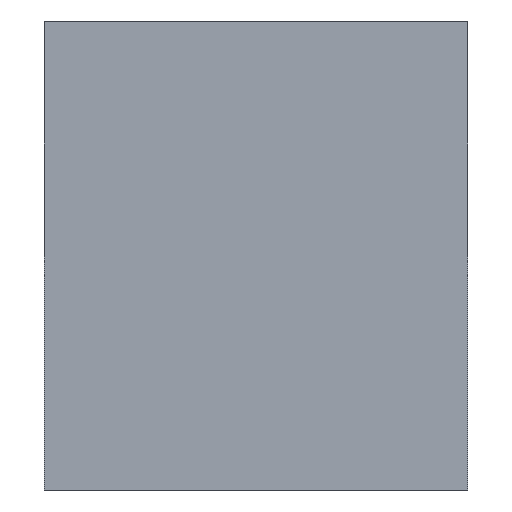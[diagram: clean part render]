
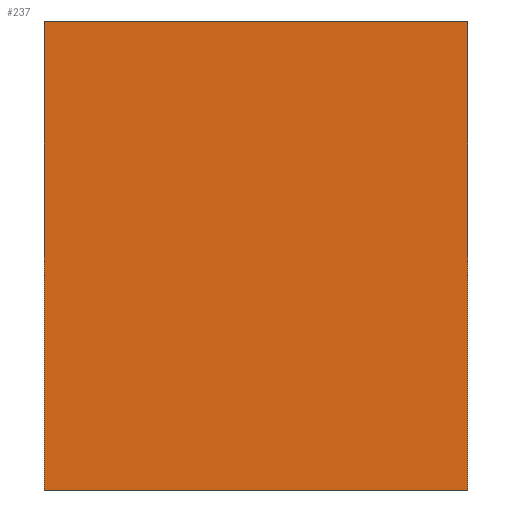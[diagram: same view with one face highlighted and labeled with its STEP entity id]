
A CAD part, front view. The second image highlights one B-rep face of the part: STEP entity #237.
In plain terms, the highlighted planar face has unit normal (0, -1, 0).
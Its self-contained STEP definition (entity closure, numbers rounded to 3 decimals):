
#21 = EDGE_CURVE('',#22,#24,#26,.T.);
#22 = VERTEX_POINT('',#23);
#23 = CARTESIAN_POINT('',(-21.5,-33.,-8.725));
#24 = VERTEX_POINT('',#25);
#25 = CARTESIAN_POINT('',(-21.5,-33.,-2.1));
#26 = SURFACE_CURVE('',#27,(#31,#43),.PCURVE_S1.);
#27 = LINE('',#28,#29);
#28 = CARTESIAN_POINT('',(-21.5,-33.,-8.725));
#29 = VECTOR('',#30,1.);
#30 = DIRECTION('',(0.,0.,1.));
#31 = PCURVE('',#32,#37);
#32 = PLANE('',#33);
#33 = AXIS2_PLACEMENT_3D('',#34,#35,#36);
#34 = CARTESIAN_POINT('',(-21.5,-33.,-8.725));
#35 = DIRECTION('',(1.,0.,-0.));
#36 = DIRECTION('',(0.,0.,1.));
#37 = DEFINITIONAL_REPRESENTATION('',(#38),#42);
#38 = LINE('',#39,#40);
#39 = CARTESIAN_POINT('',(0.,0.));
#40 = VECTOR('',#41,1.);
#41 = DIRECTION('',(1.,0.));
#42 = ( GEOMETRIC_REPRESENTATION_CONTEXT(2) 
PARAMETRIC_REPRESENTATION_CONTEXT() REPRESENTATION_CONTEXT('2D SPACE',''
  ) );
#43 = PCURVE('',#44,#49);
#44 = PLANE('',#45);
#45 = AXIS2_PLACEMENT_3D('',#46,#47,#48);
#46 = CARTESIAN_POINT('',(-21.5,-33.,-8.725));
#47 = DIRECTION('',(-0.,1.,0.));
#48 = DIRECTION('',(0.,0.,1.));
#49 = DEFINITIONAL_REPRESENTATION('',(#50),#54);
#50 = LINE('',#51,#52);
#51 = CARTESIAN_POINT('',(0.,0.));
#52 = VECTOR('',#53,1.);
#53 = DIRECTION('',(1.,0.));
#54 = ( GEOMETRIC_REPRESENTATION_CONTEXT(2) 
PARAMETRIC_REPRESENTATION_CONTEXT() REPRESENTATION_CONTEXT('2D SPACE',''
  ) );
#72 = PLANE('',#73);
#73 = AXIS2_PLACEMENT_3D('',#74,#75,#76);
#74 = CARTESIAN_POINT('',(-21.5,-33.,-8.725));
#75 = DIRECTION('',(0.,0.,1.));
#76 = DIRECTION('',(1.,0.,-0.));
#126 = PLANE('',#127);
#127 = AXIS2_PLACEMENT_3D('',#128,#129,#130);
#128 = CARTESIAN_POINT('',(-21.5,-33.,-2.1));
#129 = DIRECTION('',(0.,0.,1.));
#130 = DIRECTION('',(1.,0.,-0.));
#141 = EDGE_CURVE('',#142,#144,#146,.T.);
#142 = VERTEX_POINT('',#143);
#143 = CARTESIAN_POINT('',(-15.5,-33.,-8.725));
#144 = VERTEX_POINT('',#145);
#145 = CARTESIAN_POINT('',(-15.5,-33.,-2.1));
#146 = SURFACE_CURVE('',#147,(#151,#163),.PCURVE_S1.);
#147 = LINE('',#148,#149);
#148 = CARTESIAN_POINT('',(-15.5,-33.,-8.725));
#149 = VECTOR('',#150,1.);
#150 = DIRECTION('',(0.,0.,1.));
#151 = PCURVE('',#152,#157);
#152 = PLANE('',#153);
#153 = AXIS2_PLACEMENT_3D('',#154,#155,#156);
#154 = CARTESIAN_POINT('',(-15.5,-33.,-8.725));
#155 = DIRECTION('',(1.,0.,-0.));
#156 = DIRECTION('',(0.,0.,1.));
#157 = DEFINITIONAL_REPRESENTATION('',(#158),#162);
#158 = LINE('',#159,#160);
#159 = CARTESIAN_POINT('',(0.,0.));
#160 = VECTOR('',#161,1.);
#161 = DIRECTION('',(1.,0.));
#162 = ( GEOMETRIC_REPRESENTATION_CONTEXT(2) 
PARAMETRIC_REPRESENTATION_CONTEXT() REPRESENTATION_CONTEXT('2D SPACE',''
  ) );
#163 = PCURVE('',#44,#164);
#164 = DEFINITIONAL_REPRESENTATION('',(#165),#169);
#165 = LINE('',#166,#167);
#166 = CARTESIAN_POINT('',(0.,6.));
#167 = VECTOR('',#168,1.);
#168 = DIRECTION('',(1.,0.));
#169 = ( GEOMETRIC_REPRESENTATION_CONTEXT(2) 
PARAMETRIC_REPRESENTATION_CONTEXT() REPRESENTATION_CONTEXT('2D SPACE',''
  ) );
#237 = ADVANCED_FACE('',(#238),#44,.F.);
#238 = FACE_BOUND('',#239,.F.);
#239 = EDGE_LOOP('',(#240,#261,#262,#283));
#240 = ORIENTED_EDGE('',*,*,#241,.F.);
#241 = EDGE_CURVE('',#22,#142,#242,.T.);
#242 = SURFACE_CURVE('',#243,(#247,#254),.PCURVE_S1.);
#243 = LINE('',#244,#245);
#244 = CARTESIAN_POINT('',(-21.5,-33.,-8.725));
#245 = VECTOR('',#246,1.);
#246 = DIRECTION('',(1.,0.,-0.));
#247 = PCURVE('',#44,#248);
#248 = DEFINITIONAL_REPRESENTATION('',(#249),#253);
#249 = LINE('',#250,#251);
#250 = CARTESIAN_POINT('',(0.,0.));
#251 = VECTOR('',#252,1.);
#252 = DIRECTION('',(0.,1.));
#253 = ( GEOMETRIC_REPRESENTATION_CONTEXT(2) 
PARAMETRIC_REPRESENTATION_CONTEXT() REPRESENTATION_CONTEXT('2D SPACE',''
  ) );
#254 = PCURVE('',#72,#255);
#255 = DEFINITIONAL_REPRESENTATION('',(#256),#260);
#256 = LINE('',#257,#258);
#257 = CARTESIAN_POINT('',(0.,0.));
#258 = VECTOR('',#259,1.);
#259 = DIRECTION('',(1.,0.));
#260 = ( GEOMETRIC_REPRESENTATION_CONTEXT(2) 
PARAMETRIC_REPRESENTATION_CONTEXT() REPRESENTATION_CONTEXT('2D SPACE',''
  ) );
#261 = ORIENTED_EDGE('',*,*,#21,.T.);
#262 = ORIENTED_EDGE('',*,*,#263,.T.);
#263 = EDGE_CURVE('',#24,#144,#264,.T.);
#264 = SURFACE_CURVE('',#265,(#269,#276),.PCURVE_S1.);
#265 = LINE('',#266,#267);
#266 = CARTESIAN_POINT('',(-21.5,-33.,-2.1));
#267 = VECTOR('',#268,1.);
#268 = DIRECTION('',(1.,0.,-0.));
#269 = PCURVE('',#44,#270);
#270 = DEFINITIONAL_REPRESENTATION('',(#271),#275);
#271 = LINE('',#272,#273);
#272 = CARTESIAN_POINT('',(6.625,0.));
#273 = VECTOR('',#274,1.);
#274 = DIRECTION('',(0.,1.));
#275 = ( GEOMETRIC_REPRESENTATION_CONTEXT(2) 
PARAMETRIC_REPRESENTATION_CONTEXT() REPRESENTATION_CONTEXT('2D SPACE',''
  ) );
#276 = PCURVE('',#126,#277);
#277 = DEFINITIONAL_REPRESENTATION('',(#278),#282);
#278 = LINE('',#279,#280);
#279 = CARTESIAN_POINT('',(0.,0.));
#280 = VECTOR('',#281,1.);
#281 = DIRECTION('',(1.,0.));
#282 = ( GEOMETRIC_REPRESENTATION_CONTEXT(2) 
PARAMETRIC_REPRESENTATION_CONTEXT() REPRESENTATION_CONTEXT('2D SPACE',''
  ) );
#283 = ORIENTED_EDGE('',*,*,#141,.F.);
